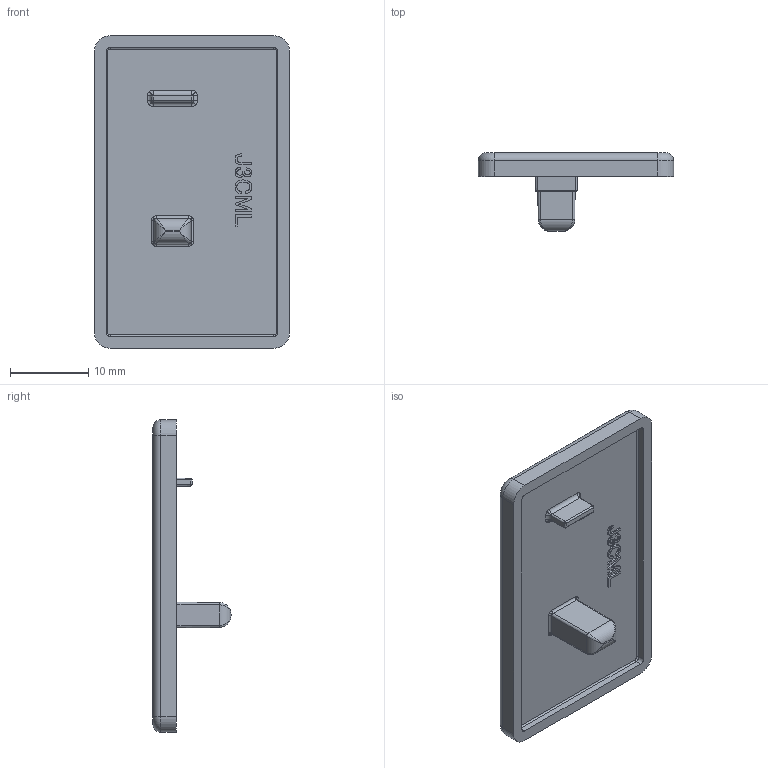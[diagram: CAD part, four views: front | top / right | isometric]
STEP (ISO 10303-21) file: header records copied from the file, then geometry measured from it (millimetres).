
FILE_DESCRIPTION (( 'STEP AP214' ), '1' );
FILE_NAME ('J3CML.step', '2017-05-24T07:38:49', ( 'admin' ), ( '' ), 'SwSTEP 2.0', 'SolidWorks 2014', '' );
FILE_SCHEMA (( 'AUTOMOTIVE_DESIGN' ));
Length unit declared in the file: millimetre
Products named in the file (1): J3CML
Bounding box: 25 x 10 x 40 mm (x, y, z)
Volume: 2285.3 mm3; surface area: 2578.2 mm2
Topology: 1 solids, 1 shells, 178 faces, 456 edges, 280 vertices
Faces by surface type: bspline 68, plane 58, cylinder 40, torus 8, sphere 4
Entity records: 6990 total; most frequent: CARTESIAN_POINT 3175, ORIENTED_EDGE 896, DIRECTION 614, EDGE_CURVE 448, VERTEX_POINT 280, VECTOR 232, LINE 232, AXIS2_PLACEMENT_3D 191
